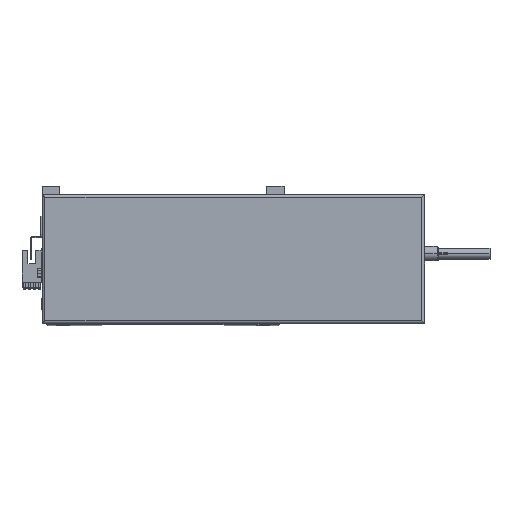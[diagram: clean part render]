
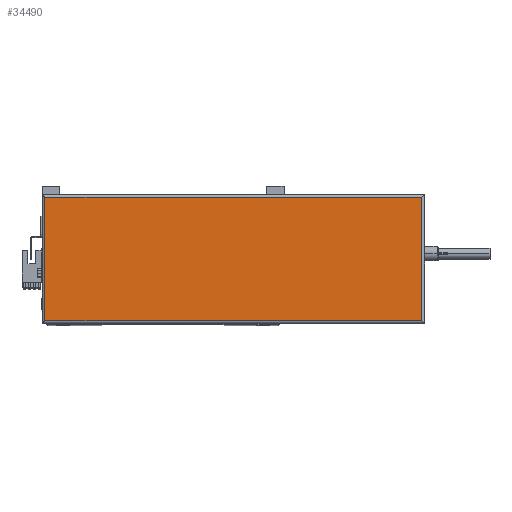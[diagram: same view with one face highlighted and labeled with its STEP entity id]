
A CAD part, top view. The second image highlights one B-rep face of the part: STEP entity #34490.
In plain terms, the highlighted planar face has unit normal (0, 0, 1).
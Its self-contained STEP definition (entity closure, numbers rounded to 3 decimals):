
#324 = CARTESIAN_POINT ( 'NONE',  ( 133.5, 45., 44.8 ) ) ;
#2004 = ORIENTED_EDGE ( 'NONE', *, *, #43904, .T. ) ;
#5378 = EDGE_LOOP ( 'NONE', ( #44870, #28637, #41664, #2004 ) ) ;
#9477 = EDGE_CURVE ( 'NONE', #36917, #20823, #12866, .T. ) ;
#11090 = DIRECTION ( 'NONE',  ( 1., 0., 0. ) ) ;
#12866 = LINE ( 'NONE', #21236, #21201 ) ;
#15590 = DIRECTION ( 'NONE',  ( 1., 0., 0. ) ) ;
#16277 = CARTESIAN_POINT ( 'NONE',  ( 2., 0., 44.8 ) ) ;
#16660 = VECTOR ( 'NONE', #37060, 1000. ) ;
#17227 = LINE ( 'NONE', #45715, #20206 ) ;
#18775 = CARTESIAN_POINT ( 'NONE',  ( 265., 88., 44.8 ) ) ;
#20206 = VECTOR ( 'NONE', #11090, 1000. ) ;
#20691 = CARTESIAN_POINT ( 'NONE',  ( 265., 2., 44.8 ) ) ;
#20823 = VERTEX_POINT ( 'NONE', #32316 ) ;
#21201 = VECTOR ( 'NONE', #24609, 1000. ) ;
#21236 = CARTESIAN_POINT ( 'NONE',  ( 0., 88., 44.8 ) ) ;
#21910 = CARTESIAN_POINT ( 'NONE',  ( 2., 2., 44.8 ) ) ;
#23990 = AXIS2_PLACEMENT_3D ( 'NONE', #324, #26766, #15590 ) ;
#24609 = DIRECTION ( 'NONE',  ( -1., 0., 0. ) ) ;
#26766 = DIRECTION ( 'NONE',  ( 0., 0., 1. ) ) ;
#27387 = LINE ( 'NONE', #33023, #16660 ) ;
#28637 = ORIENTED_EDGE ( 'NONE', *, *, #9477, .T. ) ;
#32316 = CARTESIAN_POINT ( 'NONE',  ( 2., 88., 44.8 ) ) ;
#33023 = CARTESIAN_POINT ( 'NONE',  ( 265., 90., 44.8 ) ) ;
#34273 = VERTEX_POINT ( 'NONE', #21910 ) ;
#34490 = ADVANCED_FACE ( 'NONE', ( #39259 ), #49510, .T. ) ;
#36917 = VERTEX_POINT ( 'NONE', #18775 ) ;
#37060 = DIRECTION ( 'NONE',  ( 0., 1., 0. ) ) ;
#39259 = FACE_OUTER_BOUND ( 'NONE', #5378, .T. ) ;
#40925 = VECTOR ( 'NONE', #47191, 1000. ) ;
#41664 = ORIENTED_EDGE ( 'NONE', *, *, #47065, .T. ) ;
#43827 = EDGE_CURVE ( 'NONE', #44932, #36917, #27387, .T. ) ;
#43904 = EDGE_CURVE ( 'NONE', #34273, #44932, #17227, .T. ) ;
#44870 = ORIENTED_EDGE ( 'NONE', *, *, #43827, .T. ) ;
#44932 = VERTEX_POINT ( 'NONE', #20691 ) ;
#45715 = CARTESIAN_POINT ( 'NONE',  ( 267., 2., 44.8 ) ) ;
#46879 = LINE ( 'NONE', #16277, #40925 ) ;
#47065 = EDGE_CURVE ( 'NONE', #20823, #34273, #46879, .T. ) ;
#47191 = DIRECTION ( 'NONE',  ( 0., -1., 0. ) ) ;
#49510 = PLANE ( 'NONE',  #23990 ) ;
